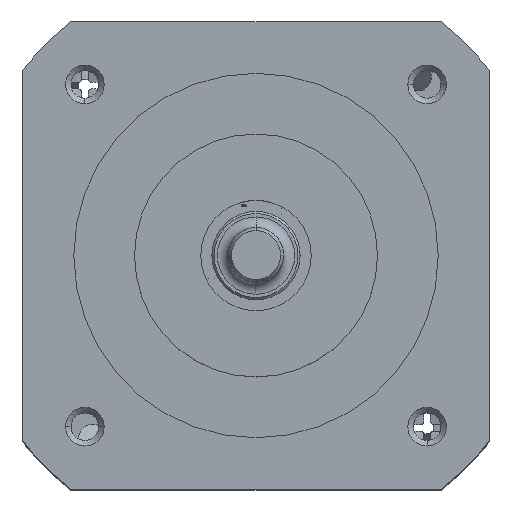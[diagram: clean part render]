
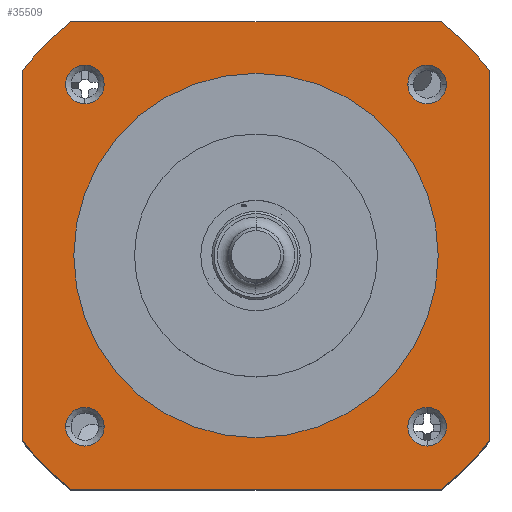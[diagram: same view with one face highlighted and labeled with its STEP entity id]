
A CAD part, top view. The second image highlights one B-rep face of the part: STEP entity #35509.
In plain terms, the highlighted planar face has unit normal (0, 0, 1).
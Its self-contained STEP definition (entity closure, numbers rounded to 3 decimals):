
#34726=CARTESIAN_POINT('',(0.,0.,8.5));
#34727=DIRECTION('',(0.,0.,-1.));
#34728=DIRECTION('',(-0.622,-0.783,0.));
#34729=AXIS2_PLACEMENT_3D('',#34726,#34727,#34728);
#34731=DIRECTION('',(0.,1.,0.));
#34732=VECTOR('',#34731,33.567);
#34733=CARTESIAN_POINT('',(-21.15,-16.783,8.5));
#34734=LINE('',#34733,#34732);
#34735=CARTESIAN_POINT('',(0.,0.,8.5));
#34736=DIRECTION('',(0.,0.,-1.));
#34737=DIRECTION('',(-0.783,0.622,0.));
#34738=AXIS2_PLACEMENT_3D('',#34735,#34736,#34737);
#34740=DIRECTION('',(1.,0.,0.));
#34741=VECTOR('',#34740,33.567);
#34742=CARTESIAN_POINT('',(-16.783,21.15,8.5));
#34743=LINE('',#34742,#34741);
#34744=CARTESIAN_POINT('',(0.,0.,8.5));
#34745=DIRECTION('',(0.,0.,-1.));
#34746=DIRECTION('',(0.622,0.783,0.));
#34747=AXIS2_PLACEMENT_3D('',#34744,#34745,#34746);
#34749=DIRECTION('',(0.,-1.,0.));
#34750=VECTOR('',#34749,33.567);
#34751=CARTESIAN_POINT('',(21.15,16.783,8.5));
#34752=LINE('',#34751,#34750);
#34753=CARTESIAN_POINT('',(0.,0.,8.5));
#34754=DIRECTION('',(0.,0.,-1.));
#34755=DIRECTION('',(0.783,-0.622,0.));
#34756=AXIS2_PLACEMENT_3D('',#34753,#34754,#34755);
#34758=DIRECTION('',(-1.,0.,0.));
#34759=VECTOR('',#34758,33.567);
#34760=CARTESIAN_POINT('',(16.783,-21.15,8.5));
#34761=LINE('',#34760,#34759);
#34762=CARTESIAN_POINT('',(0.,0.,8.5));
#34763=DIRECTION('',(0.,0.,-1.));
#34764=DIRECTION('',(0.,1.,0.));
#34765=AXIS2_PLACEMENT_3D('',#34762,#34763,#34764);
#34767=CARTESIAN_POINT('',(0.,0.,8.5));
#34768=DIRECTION('',(0.,0.,-1.));
#34769=DIRECTION('',(0.,-1.,0.));
#34770=AXIS2_PLACEMENT_3D('',#34767,#34768,#34769);
#34772=CARTESIAN_POINT('',(-15.5,-15.5,8.5));
#34773=DIRECTION('',(0.,0.,1.));
#34774=DIRECTION('',(1.,0.,0.));
#34775=AXIS2_PLACEMENT_3D('',#34772,#34773,#34774);
#34777=CARTESIAN_POINT('',(-15.5,-15.5,8.5));
#34778=DIRECTION('',(0.,0.,1.));
#34779=DIRECTION('',(-1.,0.,0.));
#34780=AXIS2_PLACEMENT_3D('',#34777,#34778,#34779);
#34782=CARTESIAN_POINT('',(-15.5,15.5,8.5));
#34783=DIRECTION('',(0.,0.,1.));
#34784=DIRECTION('',(0.,-1.,0.));
#34785=AXIS2_PLACEMENT_3D('',#34782,#34783,#34784);
#34787=CARTESIAN_POINT('',(-15.5,15.5,8.5));
#34788=DIRECTION('',(0.,0.,1.));
#34789=DIRECTION('',(0.,1.,0.));
#34790=AXIS2_PLACEMENT_3D('',#34787,#34788,#34789);
#34792=CARTESIAN_POINT('',(15.5,15.5,8.5));
#34793=DIRECTION('',(0.,0.,1.));
#34794=DIRECTION('',(-1.,0.,0.));
#34795=AXIS2_PLACEMENT_3D('',#34792,#34793,#34794);
#34797=CARTESIAN_POINT('',(15.5,15.5,8.5));
#34798=DIRECTION('',(0.,0.,1.));
#34799=DIRECTION('',(1.,0.,0.));
#34800=AXIS2_PLACEMENT_3D('',#34797,#34798,#34799);
#34802=CARTESIAN_POINT('',(15.5,-15.5,8.5));
#34803=DIRECTION('',(0.,0.,1.));
#34804=DIRECTION('',(0.,1.,0.));
#34805=AXIS2_PLACEMENT_3D('',#34802,#34803,#34804);
#34807=CARTESIAN_POINT('',(15.5,-15.5,8.5));
#34808=DIRECTION('',(0.,0.,1.));
#34809=DIRECTION('',(0.,-1.,0.));
#34810=AXIS2_PLACEMENT_3D('',#34807,#34808,#34809);
#35280=CARTESIAN_POINT('',(-16.783,-21.15,8.5));
#35281=CARTESIAN_POINT('',(-21.15,-16.783,8.5));
#35282=VERTEX_POINT('',#35280);
#35283=VERTEX_POINT('',#35281);
#35284=CARTESIAN_POINT('',(-21.15,16.783,8.5));
#35285=VERTEX_POINT('',#35284);
#35286=CARTESIAN_POINT('',(-16.783,21.15,8.5));
#35287=VERTEX_POINT('',#35286);
#35288=CARTESIAN_POINT('',(16.783,21.15,8.5));
#35289=VERTEX_POINT('',#35288);
#35290=CARTESIAN_POINT('',(21.15,16.783,8.5));
#35291=VERTEX_POINT('',#35290);
#35292=CARTESIAN_POINT('',(21.15,-16.783,8.5));
#35293=VERTEX_POINT('',#35292);
#35294=CARTESIAN_POINT('',(16.783,-21.15,8.5));
#35295=VERTEX_POINT('',#35294);
#35360=CARTESIAN_POINT('',(0.,16.5,8.5));
#35361=CARTESIAN_POINT('',(0.,-16.5,8.5));
#35362=VERTEX_POINT('',#35360);
#35363=VERTEX_POINT('',#35361);
#35368=CARTESIAN_POINT('',(-13.75,-15.5,8.5));
#35369=CARTESIAN_POINT('',(-17.25,-15.5,8.5));
#35370=VERTEX_POINT('',#35368);
#35371=VERTEX_POINT('',#35369);
#35388=CARTESIAN_POINT('',(-15.5,13.75,8.5));
#35389=CARTESIAN_POINT('',(-15.5,17.25,8.5));
#35390=VERTEX_POINT('',#35388);
#35391=VERTEX_POINT('',#35389);
#35408=CARTESIAN_POINT('',(13.75,15.5,8.5));
#35409=CARTESIAN_POINT('',(17.25,15.5,8.5));
#35410=VERTEX_POINT('',#35408);
#35411=VERTEX_POINT('',#35409);
#35428=CARTESIAN_POINT('',(15.5,-13.75,8.5));
#35429=CARTESIAN_POINT('',(15.5,-17.25,8.5));
#35430=VERTEX_POINT('',#35428);
#35431=VERTEX_POINT('',#35429);
#35456=CARTESIAN_POINT('',(0.,0.,8.5));
#35457=DIRECTION('',(0.,0.,-1.));
#35458=DIRECTION('',(1.,0.,0.));
#35459=AXIS2_PLACEMENT_3D('',#35456,#35457,#35458);
#35460=PLANE('',#35459);
#35462=ORIENTED_EDGE('',*,*,#35461,.T.);
#35464=ORIENTED_EDGE('',*,*,#35463,.T.);
#35466=ORIENTED_EDGE('',*,*,#35465,.T.);
#35468=ORIENTED_EDGE('',*,*,#35467,.T.);
#35470=ORIENTED_EDGE('',*,*,#35469,.T.);
#35472=ORIENTED_EDGE('',*,*,#35471,.T.);
#35474=ORIENTED_EDGE('',*,*,#35473,.T.);
#35476=ORIENTED_EDGE('',*,*,#35475,.T.);
#35477=EDGE_LOOP('',(#35462,#35464,#35466,#35468,#35470,#35472,#35474,#35476));
#35478=FACE_OUTER_BOUND('',#35477,.F.);
#35480=ORIENTED_EDGE('',*,*,#35479,.F.);
#35482=ORIENTED_EDGE('',*,*,#35481,.F.);
#35483=EDGE_LOOP('',(#35480,#35482));
#35484=FACE_BOUND('',#35483,.F.);
#35486=ORIENTED_EDGE('',*,*,#35485,.T.);
#35488=ORIENTED_EDGE('',*,*,#35487,.T.);
#35489=EDGE_LOOP('',(#35486,#35488));
#35490=FACE_BOUND('',#35489,.F.);
#35492=ORIENTED_EDGE('',*,*,#35491,.T.);
#35494=ORIENTED_EDGE('',*,*,#35493,.T.);
#35495=EDGE_LOOP('',(#35492,#35494));
#35496=FACE_BOUND('',#35495,.F.);
#35498=ORIENTED_EDGE('',*,*,#35497,.T.);
#35500=ORIENTED_EDGE('',*,*,#35499,.T.);
#35501=EDGE_LOOP('',(#35498,#35500));
#35502=FACE_BOUND('',#35501,.F.);
#35504=ORIENTED_EDGE('',*,*,#35503,.T.);
#35506=ORIENTED_EDGE('',*,*,#35505,.T.);
#35507=EDGE_LOOP('',(#35504,#35506));
#35508=FACE_BOUND('',#35507,.F.);
#35509=ADVANCED_FACE('',(#35478,#35484,#35490,#35496,#35502,#35508),#35460,.F.);
#34730=CIRCLE('',#34729,27.);
#34739=CIRCLE('',#34738,27.);
#34748=CIRCLE('',#34747,27.);
#34757=CIRCLE('',#34756,27.);
#34766=CIRCLE('',#34765,16.5);
#34771=CIRCLE('',#34770,16.5);
#34776=CIRCLE('',#34775,1.75);
#34781=CIRCLE('',#34780,1.75);
#34786=CIRCLE('',#34785,1.75);
#34791=CIRCLE('',#34790,1.75);
#34796=CIRCLE('',#34795,1.75);
#34801=CIRCLE('',#34800,1.75);
#34806=CIRCLE('',#34805,1.75);
#34811=CIRCLE('',#34810,1.75);
#35461=EDGE_CURVE('',#35282,#35283,#34730,.T.);
#35463=EDGE_CURVE('',#35283,#35285,#34734,.T.);
#35465=EDGE_CURVE('',#35285,#35287,#34739,.T.);
#35467=EDGE_CURVE('',#35287,#35289,#34743,.T.);
#35469=EDGE_CURVE('',#35289,#35291,#34748,.T.);
#35471=EDGE_CURVE('',#35291,#35293,#34752,.T.);
#35473=EDGE_CURVE('',#35293,#35295,#34757,.T.);
#35475=EDGE_CURVE('',#35295,#35282,#34761,.T.);
#35479=EDGE_CURVE('',#35362,#35363,#34766,.T.);
#35481=EDGE_CURVE('',#35363,#35362,#34771,.T.);
#35485=EDGE_CURVE('',#35370,#35371,#34776,.T.);
#35487=EDGE_CURVE('',#35371,#35370,#34781,.T.);
#35491=EDGE_CURVE('',#35390,#35391,#34786,.T.);
#35493=EDGE_CURVE('',#35391,#35390,#34791,.T.);
#35497=EDGE_CURVE('',#35410,#35411,#34796,.T.);
#35499=EDGE_CURVE('',#35411,#35410,#34801,.T.);
#35503=EDGE_CURVE('',#35430,#35431,#34806,.T.);
#35505=EDGE_CURVE('',#35431,#35430,#34811,.T.);
